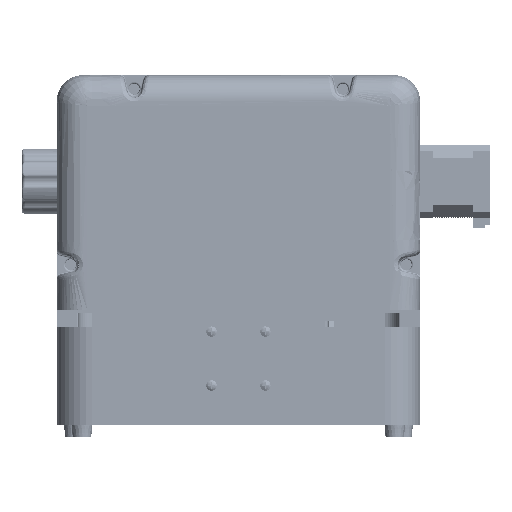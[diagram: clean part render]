
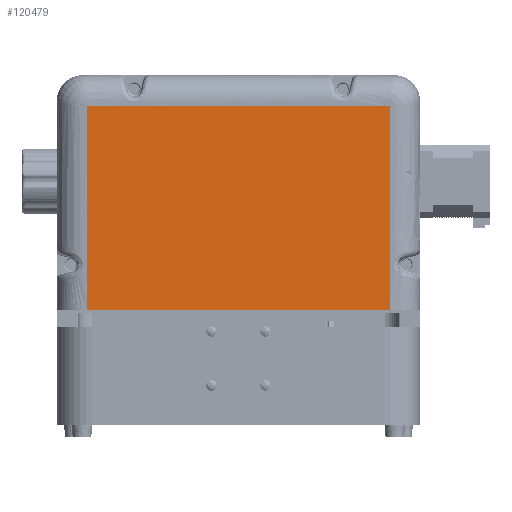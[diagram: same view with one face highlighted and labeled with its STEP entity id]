
A CAD part, left-side view. The second image highlights one B-rep face of the part: STEP entity #120479.
In plain terms, the highlighted planar face has unit normal (-1, 0, 0).
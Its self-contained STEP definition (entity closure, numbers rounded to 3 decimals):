
#21176=LINE('',#238699,#33460);
#21198=LINE('',#240372,#33482);
#21207=LINE('',#240993,#33491);
#21216=LINE('',#241202,#33500);
#21217=LINE('',#241287,#33501);
#21256=LINE('',#242584,#33540);
#33460=VECTOR('',#150903,10.);
#33482=VECTOR('',#150983,10.);
#33491=VECTOR('',#151000,10.);
#33500=VECTOR('',#151043,10.);
#33501=VECTOR('',#151044,10.);
#33540=VECTOR('',#151161,10.);
#40689=FACE_OUTER_BOUND('',#46946,.T.);
#46946=EDGE_LOOP('',(#109276,#109277,#109278,#109279,#109280,#109281));
#62872=VERTEX_POINT('',#238675);
#62873=VERTEX_POINT('',#238698);
#62930=VERTEX_POINT('',#240366);
#62931=VERTEX_POINT('',#240371);
#62963=VERTEX_POINT('',#240991);
#62964=VERTEX_POINT('',#240992);
#80423=EDGE_CURVE('',#62872,#62873,#21176,.T.);
#80521=EDGE_CURVE('',#62930,#62931,#21198,.T.);
#80564=EDGE_CURVE('',#62963,#62964,#21207,.T.);
#80592=EDGE_CURVE('',#62931,#62872,#21216,.T.);
#80595=EDGE_CURVE('',#62964,#62930,#21217,.T.);
#80669=EDGE_CURVE('',#62963,#62873,#21256,.T.);
#109276=ORIENTED_EDGE('',*,*,#80564,.F.);
#109277=ORIENTED_EDGE('',*,*,#80669,.T.);
#109278=ORIENTED_EDGE('',*,*,#80423,.F.);
#109279=ORIENTED_EDGE('',*,*,#80592,.F.);
#109280=ORIENTED_EDGE('',*,*,#80521,.F.);
#109281=ORIENTED_EDGE('',*,*,#80595,.F.);
#115280=PLANE('',#127052);
#120479=ADVANCED_FACE('',(#40689),#115280,.T.);
#127052=AXIS2_PLACEMENT_3D('',#242586,#151164,#151165);
#150903=DIRECTION('',(0.,0.,-1.));
#150983=DIRECTION('',(0.,-1.,0.));
#151000=DIRECTION('',(0.,0.,1.));
#151043=DIRECTION('',(0.,-1.,0.));
#151044=DIRECTION('',(0.,-1.,0.));
#151161=DIRECTION('',(0.,-1.,0.));
#151164=DIRECTION('center_axis',(-1.,0.,0.));
#151165=DIRECTION('ref_axis',(0.,-1.,0.));
#238675=CARTESIAN_POINT('',(-63.,-51.,43.5));
#238698=CARTESIAN_POINT('',(-63.,-51.,-74.));
#238699=CARTESIAN_POINT('',(-63.,-51.,-40.25));
#240366=CARTESIAN_POINT('',(-63.,110.,43.5));
#240371=CARTESIAN_POINT('',(-63.,-50.,43.5));
#240372=CARTESIAN_POINT('',(-63.,-8.75,43.5));
#240991=CARTESIAN_POINT('',(-63.,123.,-74.));
#240992=CARTESIAN_POINT('',(-63.,123.,43.5));
#240993=CARTESIAN_POINT('',(-63.,123.,19.75));
#241202=CARTESIAN_POINT('',(-63.,-8.75,43.5));
#241287=CARTESIAN_POINT('',(-63.,-8.75,43.5));
#242584=CARTESIAN_POINT('',(-63.,138.5,-74.));
#242586=CARTESIAN_POINT('Origin',(-63.,36.,-6.5));
